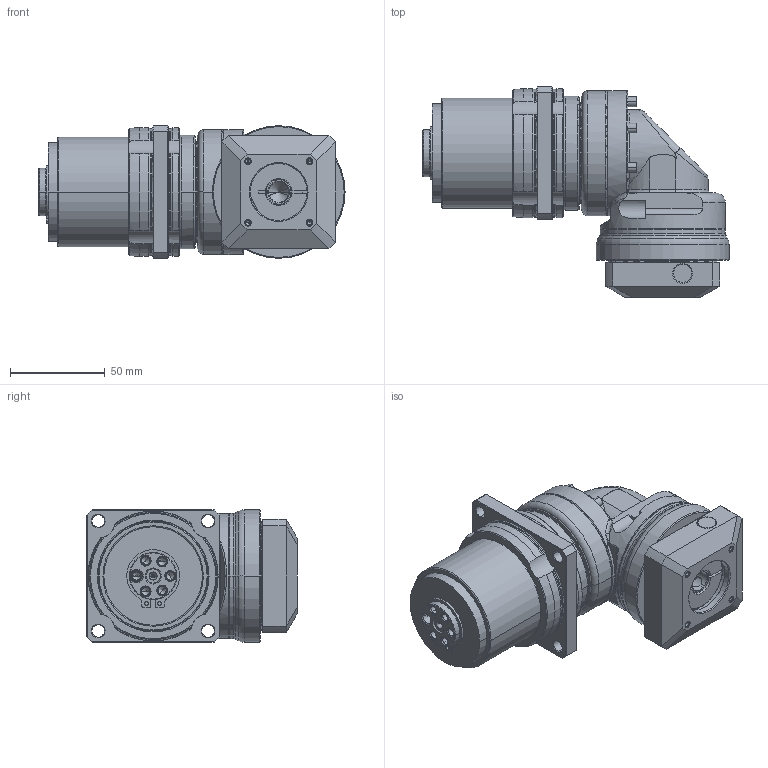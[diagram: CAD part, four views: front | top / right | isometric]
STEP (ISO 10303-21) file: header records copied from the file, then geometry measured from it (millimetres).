
FILE_DESCRIPTION((''),'2;1');
FILE_NAME('PLR070_2ST_11-P0411200101_ASM','2016-06-21T',('d00435'),(''),'PRO/ENGINEER BY PARAMETRIC TECHNOLOGY CORPORATION, 2008410','PRO/ENGINEER BY PARAMETRIC TECHNOLOGY CORPORATION, 2008410','');
FILE_SCHEMA(('CONFIG_CONTROL_DESIGN'));
Length unit declared in the file: millimetre
Products named in the file (12): P0272200001; P0366200001; 22802000015; P1356200001; P0274200001; P1349200001; P1017210001; P1350200101; P0503200005; P0713200101; P0411200101; PLR070_2ST_11-P0411200101_ASM
Assembly tree (11 placements, depth 2):
  PLR070_2ST_11-P0411200101_ASM
    P0272200001
    P0366200001
    22802000015
    P1356200001
    P0274200001
    P1349200001
    P1017210001
    P1350200101
    P0503200005
    P0713200101
    P0411200101
Bounding box: 161.5 x 111 x 70 mm (x, y, z)
Volume: 491393.1 mm3; surface area: 129001.1 mm2
Topology: 11 solids, 32 shells, 743 faces, 1761 edges, 1061 vertices
Faces by surface type: cylinder 247, cone 230, plane 138, torus 96, bspline 32
Entity records: 24585 total; most frequent: CARTESIAN_POINT 7389, DIRECTION 3786, ORIENTED_EDGE 3326, EDGE_CURVE 1705, AXIS2_PLACEMENT_3D 1601, VERTEX_POINT 1061, CIRCLE 857, EDGE_LOOP 844
